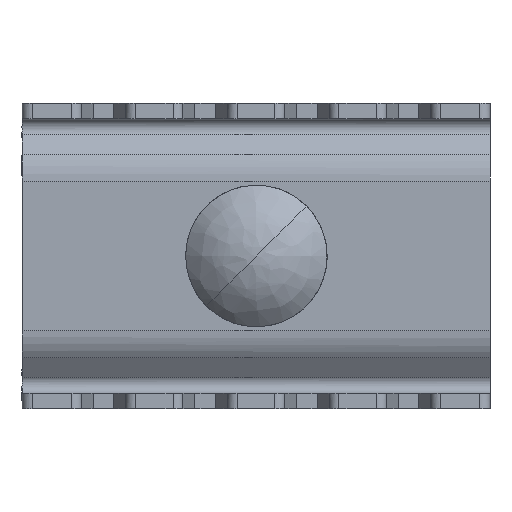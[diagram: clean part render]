
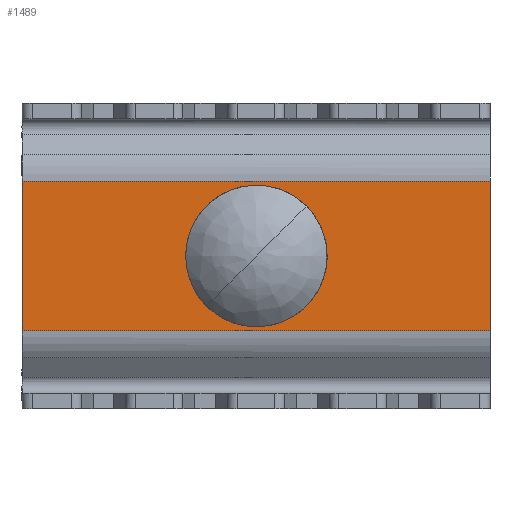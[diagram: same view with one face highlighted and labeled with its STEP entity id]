
A CAD part, left-side view. The second image highlights one B-rep face of the part: STEP entity #1489.
In plain terms, the highlighted planar face has unit normal (-1, 0, 0).
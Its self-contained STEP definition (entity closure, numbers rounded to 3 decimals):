
#49=FACE_BOUND($,#1736,.T.);
#1489=ADVANCED_FACE($,(#1612,#49),#3696,.T.);
#1612=FACE_OUTER_BOUND($,#1735,.T.);
#1735=EDGE_LOOP($,(#2082,#2083,#2084,#2085));
#1736=EDGE_LOOP($,(#2086,#2087,#2088,#2089));
#2082=ORIENTED_EDGE($,*,*,#2728,.F.);
#2083=ORIENTED_EDGE($,*,*,#2726,.T.);
#2084=ORIENTED_EDGE($,*,*,#2729,.F.);
#2085=ORIENTED_EDGE($,*,*,#2725,.T.);
#2086=ORIENTED_EDGE($,*,*,#2730,.F.);
#2087=ORIENTED_EDGE($,*,*,#2731,.F.);
#2088=ORIENTED_EDGE($,*,*,#2732,.F.);
#2089=ORIENTED_EDGE($,*,*,#2727,.F.);
#2725=EDGE_CURVE($,#3343,#3342,#3939,.T.);
#2726=EDGE_CURVE($,#3344,#3345,#3940,.T.);
#2727=EDGE_CURVE($,#3346,#3349,#3941,.T.);
#2728=EDGE_CURVE($,#3344,#3342,#3942,.T.);
#2729=EDGE_CURVE($,#3343,#3345,#3943,.T.);
#2730=EDGE_CURVE($,#3347,#3346,#3944,.T.);
#2731=EDGE_CURVE($,#3348,#3347,#3945,.T.);
#2732=EDGE_CURVE($,#3349,#3348,#3946,.T.);
#3342=VERTEX_POINT($,#5445);
#3343=VERTEX_POINT($,#5446);
#3344=VERTEX_POINT($,#5447);
#3345=VERTEX_POINT($,#5448);
#3346=VERTEX_POINT($,#5449);
#3347=VERTEX_POINT($,#5450);
#3348=VERTEX_POINT($,#5451);
#3349=VERTEX_POINT($,#5452);
#3696=PLANE($,#4267);
#3939=B_SPLINE_CURVE_WITH_KNOTS($,1,(#5428,#5429),.UNSPECIFIED.,.F.,.F.,
(2,2),(1.628,2.628),.UNSPECIFIED.);
#3940=B_SPLINE_CURVE_WITH_KNOTS($,1,(#5430,#5431),.UNSPECIFIED.,.F.,.F.,
(2,2),(0.,1.),.UNSPECIFIED.);
#3941=B_SPLINE_CURVE_WITH_KNOTS($,1,(#5432,#5433),.UNSPECIFIED.,.F.,.F.,
(2,2),(0.,1.),.UNSPECIFIED.);
#3942=B_SPLINE_CURVE_WITH_KNOTS($,1,(#5434,#5435),.UNSPECIFIED.,.F.,.F.,
(2,2),(3.,4.),.UNSPECIFIED.);
#3943=B_SPLINE_CURVE_WITH_KNOTS($,1,(#5436,#5437),.UNSPECIFIED.,.F.,.F.,
(2,2),(1.,2.),.UNSPECIFIED.);
#3944=B_SPLINE_CURVE_WITH_KNOTS($,1,(#5438,#5439),.UNSPECIFIED.,.F.,.F.,
(2,2),(3.,4.),.UNSPECIFIED.);
#3945=B_SPLINE_CURVE_WITH_KNOTS($,1,(#5440,#5441),.UNSPECIFIED.,.F.,.F.,
(2,2),(2.,3.),.UNSPECIFIED.);
#3946=B_SPLINE_CURVE_WITH_KNOTS($,1,(#5442,#5443),.UNSPECIFIED.,.F.,.F.,
(2,2),(1.,2.),.UNSPECIFIED.);
#4267=AXIS2_PLACEMENT_3D($,#5444,#4333,$);
#4333=DIRECTION($,(-1.,0.,0.));
#5428=CARTESIAN_POINT($,(8.3,23.039,-7.341));
#5429=CARTESIAN_POINT($,(8.3,-22.961,-7.341));
#5430=CARTESIAN_POINT($,(8.3,-22.961,7.341));
#5431=CARTESIAN_POINT($,(8.3,23.039,7.341));
#5432=CARTESIAN_POINT($,(8.3,-3.211,3.25));
#5433=CARTESIAN_POINT($,(8.3,3.289,3.25));
#5434=CARTESIAN_POINT($,(8.3,-22.961,7.341));
#5435=CARTESIAN_POINT($,(8.3,-22.961,-7.341));
#5436=CARTESIAN_POINT($,(8.3,23.039,-7.341));
#5437=CARTESIAN_POINT($,(8.3,23.039,7.341));
#5438=CARTESIAN_POINT($,(8.3,-3.211,-3.25));
#5439=CARTESIAN_POINT($,(8.3,-3.211,3.25));
#5440=CARTESIAN_POINT($,(8.3,3.289,-3.25));
#5441=CARTESIAN_POINT($,(8.3,-3.211,-3.25));
#5442=CARTESIAN_POINT($,(8.3,3.289,3.25));
#5443=CARTESIAN_POINT($,(8.3,3.289,-3.25));
#5444=CARTESIAN_POINT($,(8.3,23.039,-7.341));
#5445=CARTESIAN_POINT($,(8.3,-22.961,-7.341));
#5446=CARTESIAN_POINT($,(8.3,23.039,-7.341));
#5447=CARTESIAN_POINT($,(8.3,-22.961,7.341));
#5448=CARTESIAN_POINT($,(8.3,23.039,7.341));
#5449=CARTESIAN_POINT($,(8.3,-3.211,3.25));
#5450=CARTESIAN_POINT($,(8.3,-3.211,-3.25));
#5451=CARTESIAN_POINT($,(8.3,3.289,-3.25));
#5452=CARTESIAN_POINT($,(8.3,3.289,3.25));
